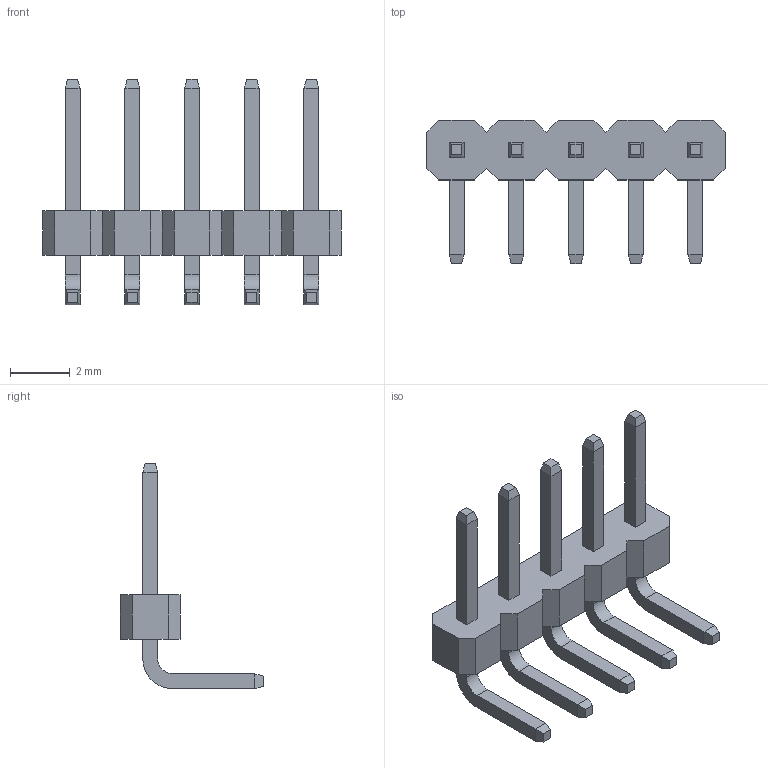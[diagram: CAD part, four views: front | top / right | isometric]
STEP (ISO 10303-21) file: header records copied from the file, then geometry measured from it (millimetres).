
FILE_DESCRIPTION (( 'STEP AP214' ), '1' );
FILE_NAME ('PLS2-5R.STEP', '2015-05-26T06:36:11', ( 'Tester2' ), ( '' ), 'SwSTEP 2.0', 'SolidWorks 2012', '' );
FILE_SCHEMA (( 'AUTOMOTIVE_DESIGN' ));
Length unit declared in the file: millimetre
Products named in the file (1): PLS2-5R
Bounding box: 10 x 4.8 x 7.55 mm (x, y, z)
Volume: 39 mm3; surface area: 166 mm2
Topology: 1 solids, 1 shells, 144 faces, 356 edges, 224 vertices
Faces by surface type: plane 134, cylinder 10
Entity records: 5384 total; most frequent: CARTESIAN_POINT 725, ORIENTED_EDGE 712, DIRECTION 666, EDGE_CURVE 356, VECTOR 336, LINE 336, VERTEX_POINT 224, AXIS2_PLACEMENT_3D 165
